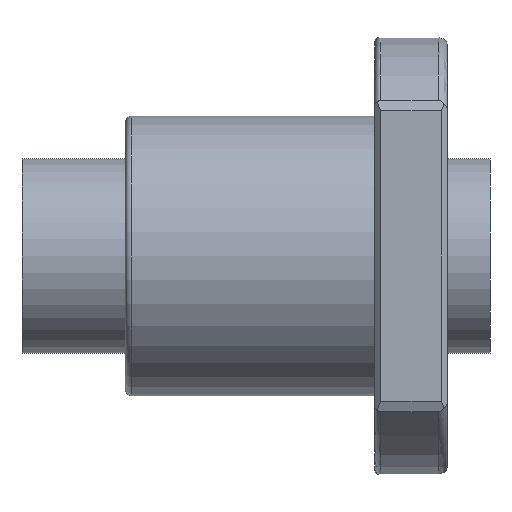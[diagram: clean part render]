
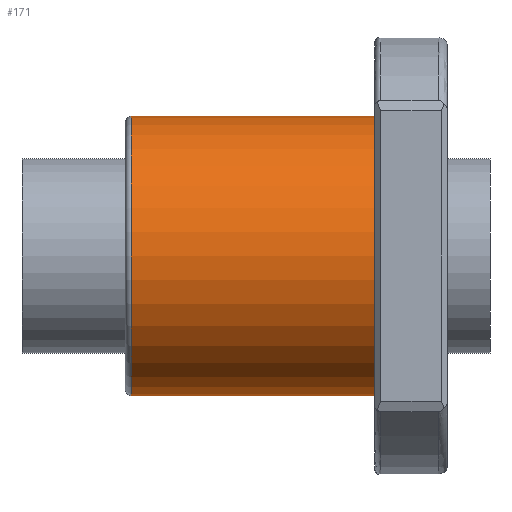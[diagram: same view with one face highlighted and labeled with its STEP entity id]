
A CAD part, left-side view. The second image highlights one B-rep face of the part: STEP entity #171.
In plain terms, the highlighted cylindrical face has radius 23 mm (diameter 46 mm), a full revolution.
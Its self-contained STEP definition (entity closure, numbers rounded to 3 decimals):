
#171=ADVANCED_FACE('',(#234,#235),#207,.T.);
#207=CYLINDRICAL_SURFACE('',#752,23.);
#234=FACE_BOUND('',#300,.T.);
#235=FACE_BOUND('',#301,.T.);
#300=EDGE_LOOP('',(#420));
#301=EDGE_LOOP('',(#421));
#420=ORIENTED_EDGE('',*,*,#633,.T.);
#421=ORIENTED_EDGE('',*,*,#614,.F.);
#546=VERTEX_POINT('',#1189);
#558=VERTEX_POINT('',#1343);
#614=EDGE_CURVE('',#546,#546,#685,.T.);
#633=EDGE_CURVE('',#558,#558,#692,.T.);
#685=CIRCLE('',#738,23.);
#692=CIRCLE('',#751,23.);
#738=AXIS2_PLACEMENT_3D('',#1188,#864,#865);
#751=AXIS2_PLACEMENT_3D('',#1342,#894,#895);
#752=AXIS2_PLACEMENT_3D('',#1344,#896,#897);
#864=DIRECTION('',(0.,-1.,0.));
#865=DIRECTION('',(0.,0.,-1.));
#894=DIRECTION('',(0.,-1.,0.));
#895=DIRECTION('',(0.,0.,-1.));
#896=DIRECTION('',(0.,1.,0.));
#897=DIRECTION('',(0.,0.,1.));
#1188=CARTESIAN_POINT('',(0.,12.,0.));
#1189=CARTESIAN_POINT('',(0.,12.,-23.));
#1342=CARTESIAN_POINT('',(0.,52.,0.));
#1343=CARTESIAN_POINT('',(0.,52.,-23.));
#1344=CARTESIAN_POINT('',(0.,0.,0.));
